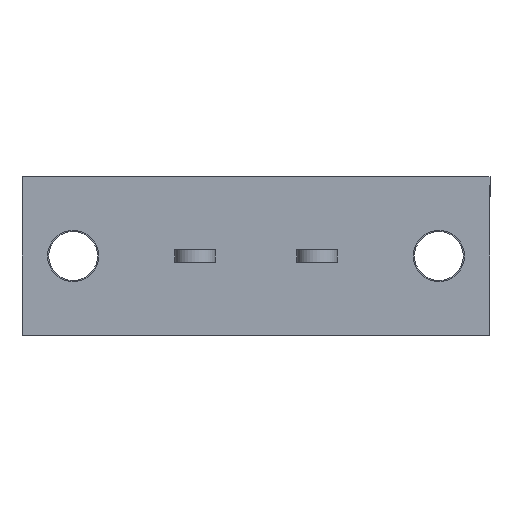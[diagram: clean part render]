
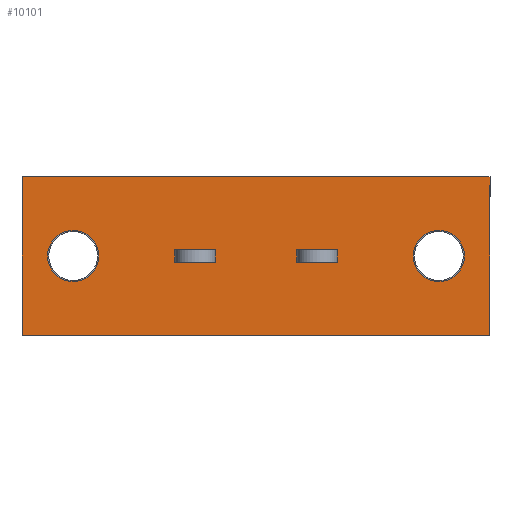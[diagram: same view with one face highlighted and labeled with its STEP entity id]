
A CAD part, front view. The second image highlights one B-rep face of the part: STEP entity #10101.
In plain terms, the highlighted planar face has unit normal (0, -1, 0).
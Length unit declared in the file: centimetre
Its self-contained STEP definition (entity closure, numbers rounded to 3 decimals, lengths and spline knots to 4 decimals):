
#542=VECTOR('',#10874,1.);
#546=VECTOR('',#10879,1.);
#561=VECTOR('',#10916,1.);
#569=VECTOR('',#10928,1.);
#749=VECTOR('',#11303,1.);
#753=VECTOR('',#11314,1.);
#756=VECTOR('',#11330,1.);
#757=VECTOR('',#11332,1.);
#803=VECTOR('',#11406,1.);
#1250=VECTOR('',#12029,1.);
#1268=VECTOR('',#12057,1.);
#1288=VECTOR('',#12093,1.);
#1712=LINE('',#12810,#542);
#1716=LINE('',#12819,#546);
#1731=LINE('',#12863,#561);
#1739=LINE('',#12879,#569);
#1919=LINE('',#13393,#749);
#1923=LINE('',#13405,#753);
#1926=LINE('',#13417,#756);
#1927=LINE('',#13420,#757);
#1973=LINE('',#13520,#803);
#2420=LINE('',#15131,#1250);
#2438=LINE('',#15170,#1268);
#2458=LINE('',#15212,#1288);
#2902=VERTEX_POINT('',#12811);
#2903=VERTEX_POINT('',#12812);
#2906=VERTEX_POINT('',#12820);
#2922=VERTEX_POINT('',#12864);
#3087=VERTEX_POINT('',#13394);
#3088=VERTEX_POINT('',#13395);
#3091=VERTEX_POINT('',#13406);
#3092=VERTEX_POINT('',#13418);
#3125=VERTEX_POINT('',#13521);
#3126=VERTEX_POINT('',#13522);
#3133=VERTEX_POINT('',#13549);
#3501=VERTEX_POINT('',#15129);
#3503=VERTEX_POINT('',#15132);
#3509=VERTEX_POINT('',#15146);
#3929=CIRCLE('',#16935,0.21);
#3939=CIRCLE('',#17092,0.21);
#4022=EDGE_CURVE('',#2902,#2903,#1712,.T.);
#4026=EDGE_CURVE('',#2906,#2902,#1716,.T.);
#4048=EDGE_CURVE('',#2922,#2906,#1731,.T.);
#4057=EDGE_CURVE('',#2903,#2922,#1739,.T.);
#4291=EDGE_CURVE('',#3087,#3088,#1919,.T.);
#4297=EDGE_CURVE('',#3091,#3087,#1923,.T.);
#4304=EDGE_CURVE('',#3092,#3091,#1926,.T.);
#4306=EDGE_CURVE('',#3088,#3092,#1927,.T.);
#4356=EDGE_CURVE('',#3125,#3126,#1973,.T.);
#4370=EDGE_CURVE('',#3133,#3133,#3929,.T.);
#4917=EDGE_CURVE('',#3503,#3501,#2420,.T.);
#4924=EDGE_CURVE('',#3509,#3509,#3939,.T.);
#4936=EDGE_CURVE('',#3125,#3501,#2438,.T.);
#4958=EDGE_CURVE('',#3126,#3503,#2458,.T.);
#7452=ORIENTED_EDGE('',*,*,#4026,.T.);
#7453=ORIENTED_EDGE('',*,*,#4022,.T.);
#7454=ORIENTED_EDGE('',*,*,#4057,.T.);
#7455=ORIENTED_EDGE('',*,*,#4048,.T.);
#7456=ORIENTED_EDGE('',*,*,#4370,.T.);
#7457=ORIENTED_EDGE('',*,*,#4297,.F.);
#7458=ORIENTED_EDGE('',*,*,#4304,.F.);
#7459=ORIENTED_EDGE('',*,*,#4306,.F.);
#7460=ORIENTED_EDGE('',*,*,#4291,.F.);
#7461=ORIENTED_EDGE('',*,*,#4924,.T.);
#7462=ORIENTED_EDGE('',*,*,#4958,.T.);
#7463=ORIENTED_EDGE('',*,*,#4917,.T.);
#7464=ORIENTED_EDGE('',*,*,#4936,.F.);
#7465=ORIENTED_EDGE('',*,*,#4356,.T.);
#8883=EDGE_LOOP('',(#7452,#7453,#7454,#7455));
#8884=EDGE_LOOP('',(#7456));
#8885=EDGE_LOOP('',(#7457,#7458,#7459,#7460));
#8886=EDGE_LOOP('',(#7461));
#8887=EDGE_LOOP('',(#7462,#7463,#7464,#7465));
#9515=FACE_BOUND('',#8883,.T.);
#9516=FACE_BOUND('',#8884,.T.);
#9517=FACE_BOUND('',#8885,.T.);
#9518=FACE_BOUND('',#8886,.T.);
#9519=FACE_BOUND('',#8887,.T.);
#10101=ADVANCED_FACE('',(#9515,#9516,#9517,#9518,#9519),#10577,.T.);
#10577=PLANE('',#17111);
#10874=DIRECTION('',(-1.,0.,0.));
#10879=DIRECTION('',(0.,0.,-1.));
#10916=DIRECTION('',(1.,0.,0.));
#10928=DIRECTION('',(0.,0.,1.));
#11303=DIRECTION('',(-1.,0.,0.));
#11314=DIRECTION('',(0.,0.,1.));
#11330=DIRECTION('',(1.,0.,0.));
#11332=DIRECTION('',(0.,0.,-1.));
#11406=DIRECTION('',(1.,0.,0.));
#11427=DIRECTION('',(0.,1.,0.));
#11428=DIRECTION('',(0.,0.,0.21));
#12029=DIRECTION('',(-1.,0.,0.));
#12038=DIRECTION('',(0.,1.,0.));
#12039=DIRECTION('',(0.,0.,0.21));
#12057=DIRECTION('',(0.,0.,1.));
#12093=DIRECTION('',(0.,0.,1.));
#12094=DIRECTION('',(0.,-1.,0.));
#12810=CARTESIAN_POINT('',(0.,-0.95,0.835));
#12811=CARTESIAN_POINT('',(0.05,-0.95,0.835));
#12812=CARTESIAN_POINT('',(-0.05,-0.95,0.835));
#12819=CARTESIAN_POINT('',(0.05,-0.95,1.21));
#12820=CARTESIAN_POINT('',(0.05,-0.95,1.165));
#12863=CARTESIAN_POINT('',(0.,-0.95,1.165));
#12864=CARTESIAN_POINT('',(-0.05,-0.95,1.165));
#12879=CARTESIAN_POINT('',(-0.05,-0.95,1.21));
#13393=CARTESIAN_POINT('',(0.,-0.95,0.165));
#13394=CARTESIAN_POINT('',(0.05,-0.95,0.165));
#13395=CARTESIAN_POINT('',(-0.05,-0.95,0.165));
#13405=CARTESIAN_POINT('',(0.05,-0.95,-0.21));
#13406=CARTESIAN_POINT('',(0.05,-0.95,-0.165));
#13417=CARTESIAN_POINT('',(0.,-0.95,-0.165));
#13418=CARTESIAN_POINT('',(-0.05,-0.95,-0.165));
#13420=CARTESIAN_POINT('',(-0.05,-0.95,-0.21));
#13520=CARTESIAN_POINT('',(-0.65,-0.95,-1.42));
#13521=CARTESIAN_POINT('',(-0.65,-0.95,-1.42));
#13522=CARTESIAN_POINT('',(0.65,-0.95,-1.42));
#13548=CARTESIAN_POINT('',(0.,-0.95,-1.));
#13549=CARTESIAN_POINT('',(0.,-0.95,-1.21));
#15129=CARTESIAN_POINT('',(-0.65,-0.95,2.42));
#15131=CARTESIAN_POINT('',(-0.65,-0.95,2.42));
#15132=CARTESIAN_POINT('',(0.65,-0.95,2.42));
#15145=CARTESIAN_POINT('',(0.,-0.95,2.));
#15146=CARTESIAN_POINT('',(0.,-0.95,1.79));
#15170=CARTESIAN_POINT('',(-0.65,-0.95,1.42));
#15212=CARTESIAN_POINT('',(0.65,-0.95,-1.42));
#15213=CARTESIAN_POINT('',(0.,-0.95,1.42));
#16935=AXIS2_PLACEMENT_3D('',#13548,#11427,#11428);
#17092=AXIS2_PLACEMENT_3D('',#15145,#12038,#12039);
#17111=AXIS2_PLACEMENT_3D('',#15213,#12094,$);
